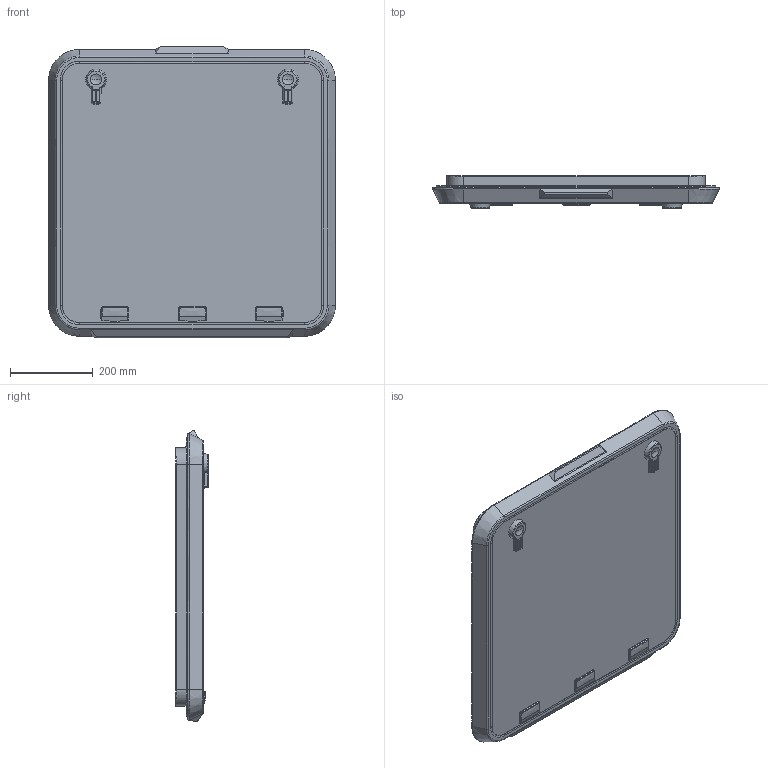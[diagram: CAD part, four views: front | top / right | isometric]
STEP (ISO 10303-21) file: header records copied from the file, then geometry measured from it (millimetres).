
FILE_DESCRIPTION((''),'2;1');
FILE_NAME('LEWMAR_HATCH_OCEAN_70_FLANGE_ASM','2008-02-21T',('skennedy'),(''),'PRO/ENGINEER BY PARAMETRIC TECHNOLOGY CORPORATION, 2007030','PRO/ENGINEER BY PARAMETRIC TECHNOLOGY CORPORATION, 2007030','');
FILE_SCHEMA(('CONFIG_CONTROL_DESIGN'));
Length unit declared in the file: millimetre
Products named in the file (6): OCEAN_ACRYLIC_70; OCEAN_LARGE_HINGE_LEVER_1; FRAME_70_FLANGE; OCEAN_LARGE_HANDLE_1; OCEAN_LARGE_HANDLE_2; LEWMAR_HATCH_OCEAN_70_FLANGE_ASM
Assembly tree (7 placements, depth 2):
  LEWMAR_HATCH_OCEAN_70_FLANGE_ASM
    OCEAN_ACRYLIC_70
    OCEAN_LARGE_HINGE_LEVER_1  x3
    FRAME_70_FLANGE
    OCEAN_LARGE_HANDLE_1
    OCEAN_LARGE_HANDLE_2
Bounding box: 693.95 x 79 x 705.36 mm (x, y, z)
Volume: 4772896.2 mm3; surface area: 1559230.2 mm2
Topology: 8 solids, 9 shells, 959 faces, 2348 edges, 1416 vertices
Faces by surface type: plane 306, bspline 305, cylinder 236, cone 43, torus 36, sphere 26, extrusion 7
Entity records: 31095 total; most frequent: CARTESIAN_POINT 14577, ORIENTED_EDGE 3736, DIRECTION 2779, EDGE_CURVE 1876, VERTEX_POINT 1124, AXIS2_PLACEMENT_3D 940, VECTOR 899, LINE 892
